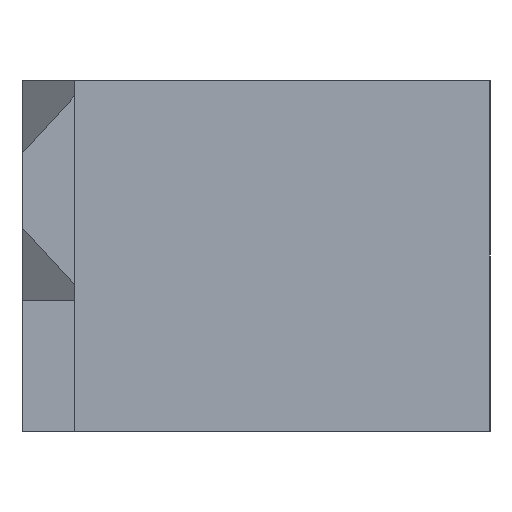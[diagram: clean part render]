
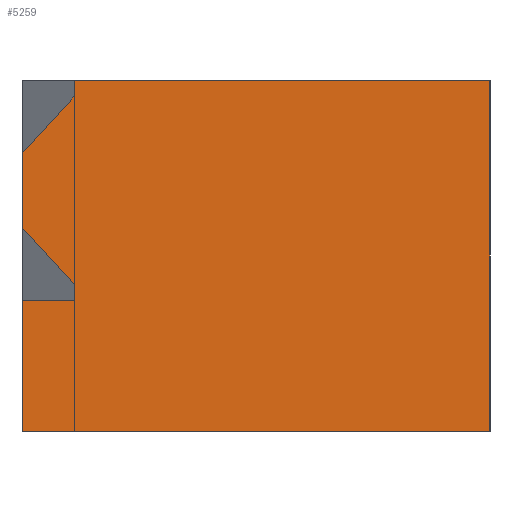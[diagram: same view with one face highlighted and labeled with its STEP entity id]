
A CAD part, left-side view. The second image highlights one B-rep face of the part: STEP entity #5259.
In plain terms, the highlighted planar face has unit normal (-1, 0, 0).
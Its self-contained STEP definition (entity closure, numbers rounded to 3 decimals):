
#5259=ADVANCED_FACE('',(#27030),#27032,.T.);
#27030=FACE_BOUND('',#27031,.T.);
#27031=EDGE_LOOP('',(#47539,#47540,#47541,#47542,#47543,#47544,#47545,#47546,#47547,
#47548));
#27032=PLANE('',#27033);
#27033=AXIS2_PLACEMENT_3D('',#27034,#27035,#27036);
#27034=CARTESIAN_POINT('',(0.,0.,0.));
#27035=DIRECTION('',(-1.,0.,0.));
#27036=DIRECTION('',(0.,0.,-1.));
#47539=ORIENTED_EDGE('',*,*,#60697,.T.);
#47540=ORIENTED_EDGE('',*,*,#60698,.T.);
#47541=ORIENTED_EDGE('',*,*,#60699,.T.);
#47542=ORIENTED_EDGE('',*,*,#60700,.T.);
#47543=ORIENTED_EDGE('',*,*,#60701,.T.);
#47544=ORIENTED_EDGE('',*,*,#60702,.T.);
#47545=ORIENTED_EDGE('',*,*,#60703,.T.);
#47546=ORIENTED_EDGE('',*,*,#59734,.T.);
#47547=ORIENTED_EDGE('',*,*,#60704,.T.);
#47548=ORIENTED_EDGE('',*,*,#55822,.T.);
#55822=EDGE_CURVE('',#63729,#63727,#63730,.T.);
#59734=EDGE_CURVE('',#71553,#71551,#71554,.T.);
#60697=EDGE_CURVE('',#63727,#72998,#73000,.F.);
#60698=EDGE_CURVE('',#72998,#73001,#73002,.F.);
#60699=EDGE_CURVE('',#73001,#73003,#73004,.T.);
#60700=EDGE_CURVE('',#73003,#73005,#73006,.F.);
#60701=EDGE_CURVE('',#73005,#73007,#73008,.F.);
#60702=EDGE_CURVE('',#73007,#73009,#73010,.F.);
#60703=EDGE_CURVE('',#73009,#71553,#73011,.T.);
#60704=EDGE_CURVE('',#71551,#63729,#73012,.T.);
#63727=VERTEX_POINT('',#77193);
#63729=VERTEX_POINT('',#77197);
#63730=LINE('',#77198,#77199);
#71551=VERTEX_POINT('',#92907);
#71553=VERTEX_POINT('',#92911);
#71554=LINE('',#92912,#92913);
#72998=VERTEX_POINT('',#96280);
#73000=LINE('',#96284,#96285);
#73001=VERTEX_POINT('',#96287);
#73002=LINE('',#96288,#96289);
#73003=VERTEX_POINT('',#96291);
#73004=LINE('',#96292,#96293);
#73005=VERTEX_POINT('',#96295);
#73006=LINE('',#96296,#96297);
#73007=VERTEX_POINT('',#96299);
#73008=LINE('',#96300,#96301);
#73009=VERTEX_POINT('',#96303);
#73010=LINE('',#96304,#96305);
#73011=LINE('',#96307,#96308);
#73012=LINE('',#96310,#96311);
#77193=CARTESIAN_POINT('',(0.,7.75,7.5));
#77197=CARTESIAN_POINT('',(0.,-10.,7.5));
#77198=CARTESIAN_POINT('',(0.,-10.,7.5));
#77199=VECTOR('',#77200,1.);
#77200=DIRECTION('',(0.,1.,0.));
#92907=CARTESIAN_POINT('',(0.,-10.,-7.5));
#92911=CARTESIAN_POINT('',(0.,10.,-7.5));
#92912=CARTESIAN_POINT('',(0.,10.,-7.5));
#92913=VECTOR('',#92914,1.);
#92914=DIRECTION('',(0.,-1.,0.));
#96280=CARTESIAN_POINT('',(0.,7.75,6.838));
#96284=CARTESIAN_POINT('',(0.,7.75,6.838));
#96285=VECTOR('',#96286,1.);
#96286=DIRECTION('',(0.,0.,1.));
#96287=CARTESIAN_POINT('',(0.,10.,4.388));
#96288=CARTESIAN_POINT('',(0.,10.,4.388));
#96289=VECTOR('',#96290,1.);
#96290=DIRECTION('',(0.,-0.676,0.737));
#96291=CARTESIAN_POINT('',(0.,10.,1.213));
#96292=CARTESIAN_POINT('',(0.,10.,4.388));
#96293=VECTOR('',#96294,1.);
#96294=DIRECTION('',(0.,0.,-1.));
#96295=CARTESIAN_POINT('',(0.,7.75,-1.236));
#96296=CARTESIAN_POINT('',(0.,7.75,-1.236));
#96297=VECTOR('',#96298,1.);
#96298=DIRECTION('',(0.,0.676,0.737));
#96299=CARTESIAN_POINT('',(0.,7.75,-1.898));
#96300=CARTESIAN_POINT('',(0.,7.75,-1.898));
#96301=VECTOR('',#96302,1.);
#96302=DIRECTION('',(0.,0.,1.));
#96303=CARTESIAN_POINT('',(0.,10.,-1.898));
#96304=CARTESIAN_POINT('',(0.,10.,-1.898));
#96305=VECTOR('',#96306,1.);
#96306=DIRECTION('',(0.,-1.,0.));
#96307=CARTESIAN_POINT('',(0.,10.,-1.898));
#96308=VECTOR('',#96309,1.);
#96309=DIRECTION('',(0.,0.,-1.));
#96310=CARTESIAN_POINT('',(0.,-10.,-7.5));
#96311=VECTOR('',#96312,1.);
#96312=DIRECTION('',(0.,0.,1.));
